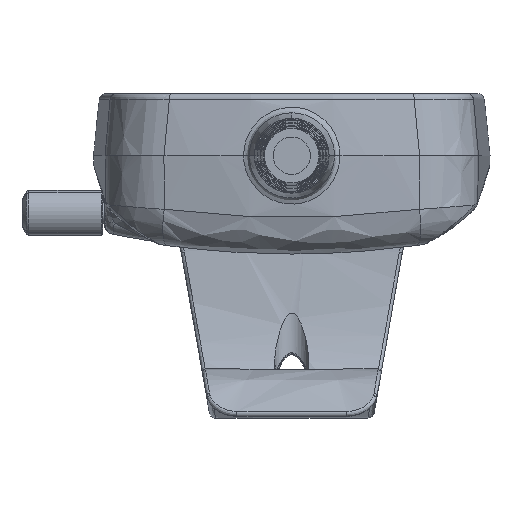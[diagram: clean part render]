
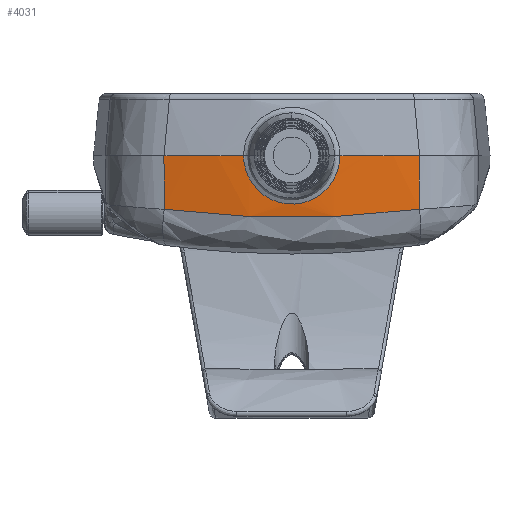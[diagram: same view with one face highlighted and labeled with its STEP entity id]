
A CAD part, front view. The second image highlights one B-rep face of the part: STEP entity #4031.
In plain terms, the highlighted conical face has half-angle 1 degrees and reference radius 100 mm.
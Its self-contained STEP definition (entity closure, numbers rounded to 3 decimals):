
#2424 = CIRCLE ( 'NONE', #10040, 100. ) ;
#4031 = ADVANCED_FACE ( 'NONE', ( #35041 ), #35038, .T. ) ;
#8880 = EDGE_CURVE ( 'NONE', #18343, #18563, #14542, .T. ) ;
#8885 = EDGE_CURVE ( 'NONE', #18563, #18247, #35634, .T. ) ;
#8886 = EDGE_CURVE ( 'NONE', #18503, #18304, #14538, .T. ) ;
#8896 = EDGE_CURVE ( 'NONE', #18429, #18343, #34967, .T. ) ;
#8897 = EDGE_CURVE ( 'NONE', #18247, #18503, #34957, .T. ) ;
#9342 = AXIS2_PLACEMENT_3D ( 'NONE', #15811, #15807, #15809 ) ;
#9459 = AXIS2_PLACEMENT_3D ( 'NONE', #24072, #24076, #24077 ) ;
#10040 = AXIS2_PLACEMENT_3D ( 'NONE', #30274, #30278, #30279 ) ;
#13617 = EDGE_LOOP ( 'NONE', ( #21407, #21217, #20940, #20742, #20903, #20716 ) ) ;
#14538 = B_SPLINE_CURVE_WITH_KNOTS ( 'NONE', 3,
 ( #23903, #23912, #23913, #23914, #23915, #23916, #23917, #23918, #23919, #23920, #23921, #23922, #23923, #23924, #23925, #23926, #23927, #23928, #23929, #23930, #23931, #23932, #23933, #23934, #23935, #23937, #23938, #23939, #23940, #23941, #23942, #23943, #23944, #23945, #23946, #23947, #23948, #23949, #23950, #23951, #23952, #23953 ),
 .UNSPECIFIED., .F., .F.,
 ( 4, 2, 2, 2, 2, 2, 2, 2, 2, 2, 2, 2, 2, 2, 2, 2, 2, 2, 2, 2, 4 ),
 ( 0., 0.002, 0.003, 0.004, 0.005, 0.006, 0.008, 0.008, 0.009, 0.011, 0.012, 0.014, 0.015, 0.015, 0.017, 0.018, 0.019, 0.02, 0.022, 0.023, 0.025 ),
 .UNSPECIFIED. ) ;
#14542 = B_SPLINE_CURVE_WITH_KNOTS ( 'NONE', 3,
 ( #23855, #23878, #23879, #23880, #23881, #23882, #23883, #23884, #23885, #23886, #23888, #23889, #23890 ),
 .UNSPECIFIED., .F., .F.,
 ( 4, 2, 2, 1, 2, 2, 4 ),
 ( 0., 0.25, 0.375, 0.438, 0.469, 0.5, 1. ),
 .UNSPECIFIED. ) ;
#15807 = DIRECTION ( 'NONE',  ( 0., 0., 1. ) ) ;
#15809 = DIRECTION ( 'NONE',  ( 1., 0., 0. ) ) ;
#15811 = CARTESIAN_POINT ( 'NONE',  ( 0., -4.606, 0. ) ) ;
#18247 = VERTEX_POINT ( 'NONE', #27585 ) ;
#18304 = VERTEX_POINT ( 'NONE', #27641 ) ;
#18343 = VERTEX_POINT ( 'NONE', #27680 ) ;
#18429 = VERTEX_POINT ( 'NONE', #27766 ) ;
#18503 = VERTEX_POINT ( 'NONE', #27840 ) ;
#18563 = VERTEX_POINT ( 'NONE', #27900 ) ;
#20716 = ORIENTED_EDGE ( 'NONE', *, *, #8885, .T. ) ;
#20742 = ORIENTED_EDGE ( 'NONE', *, *, #8896, .T. ) ;
#20903 = ORIENTED_EDGE ( 'NONE', *, *, #8880, .T. ) ;
#20940 = ORIENTED_EDGE ( 'NONE', *, *, #33908, .T. ) ;
#21217 = ORIENTED_EDGE ( 'NONE', *, *, #8886, .T. ) ;
#21407 = ORIENTED_EDGE ( 'NONE', *, *, #8897, .T. ) ;
#23855 = CARTESIAN_POINT ( 'NONE',  ( -20.577, -102.312, -8.635 ) ) ;
#23878 = CARTESIAN_POINT ( 'NONE',  ( -17.16, -103.024, -9.076 ) ) ;
#23879 = CARTESIAN_POINT ( 'NONE',  ( -13.721, -103.555, -9.407 ) ) ;
#23880 = CARTESIAN_POINT ( 'NONE',  ( -8.56, -104.083, -9.737 ) ) ;
#23881 = CARTESIAN_POINT ( 'NONE',  ( -6.84, -104.215, -9.819 ) ) ;
#23882 = CARTESIAN_POINT ( 'NONE',  ( -4.261, -104.346, -9.901 ) ) ;
#23883 = CARTESIAN_POINT ( 'NONE',  ( -2.973, -104.395, -9.932 ) ) ;
#23884 = CARTESIAN_POINT ( 'NONE',  ( -1.686, -104.419, -9.948 ) ) ;
#23885 = CARTESIAN_POINT ( 'NONE',  ( -0.829, -104.43, -9.954 ) ) ;
#23886 = CARTESIAN_POINT ( 'NONE',  ( -0.399, -104.432, -9.956 ) ) ;
#23888 = CARTESIAN_POINT ( 'NONE',  ( 6.862, -104.43, -9.955 ) ) ;
#23889 = CARTESIAN_POINT ( 'NONE',  ( 13.76, -103.732, -9.515 ) ) ;
#23890 = CARTESIAN_POINT ( 'NONE',  ( 20.577, -102.312, -8.635 ) ) ;
#23903 = CARTESIAN_POINT ( 'NONE',  ( 7.766, -104.304, 0. ) ) ;
#23908 = CARTESIAN_POINT ( 'NONE',  ( 20.608, -102.46, 0. ) ) ;
#23909 = DIRECTION ( 'NONE',  ( 0.004, -0.017, 1. ) ) ;
#23912 = CARTESIAN_POINT ( 'NONE',  ( 7.767, -104.295, -0.514 ) ) ;
#23913 = CARTESIAN_POINT ( 'NONE',  ( 7.716, -104.29, -1.029 ) ) ;
#23914 = CARTESIAN_POINT ( 'NONE',  ( 7.518, -104.288, -2.027 ) ) ;
#23915 = CARTESIAN_POINT ( 'NONE',  ( 7.371, -104.29, -2.512 ) ) ;
#23916 = CARTESIAN_POINT ( 'NONE',  ( 7.08, -104.299, -3.219 ) ) ;
#23917 = CARTESIAN_POINT ( 'NONE',  ( 6.97, -104.303, -3.452 ) ) ;
#23918 = CARTESIAN_POINT ( 'NONE',  ( 6.729, -104.311, -3.904 ) ) ;
#23919 = CARTESIAN_POINT ( 'NONE',  ( 6.599, -104.316, -4.122 ) ) ;
#23920 = CARTESIAN_POINT ( 'NONE',  ( 6.178, -104.332, -4.755 ) ) ;
#23921 = CARTESIAN_POINT ( 'NONE',  ( 5.857, -104.345, -5.148 ) ) ;
#23922 = CARTESIAN_POINT ( 'NONE',  ( 5.133, -104.372, -5.875 ) ) ;
#23923 = CARTESIAN_POINT ( 'NONE',  ( 4.739, -104.386, -6.199 ) ) ;
#23924 = CARTESIAN_POINT ( 'NONE',  ( 4.108, -104.406, -6.623 ) ) ;
#23925 = CARTESIAN_POINT ( 'NONE',  ( 3.89, -104.413, -6.754 ) ) ;
#23926 = CARTESIAN_POINT ( 'NONE',  ( 3.441, -104.425, -6.995 ) ) ;
#23927 = CARTESIAN_POINT ( 'NONE',  ( 3.208, -104.431, -7.106 ) ) ;
#23928 = CARTESIAN_POINT ( 'NONE',  ( 2.501, -104.447, -7.4 ) ) ;
#23929 = CARTESIAN_POINT ( 'NONE',  ( 2.016, -104.455, -7.547 ) ) ;
#23930 = CARTESIAN_POINT ( 'NONE',  ( 1.019, -104.467, -7.746 ) ) ;
#23931 = CARTESIAN_POINT ( 'NONE',  ( 0.504, -104.47, -7.797 ) ) ;
#23932 = CARTESIAN_POINT ( 'NONE',  ( -0.513, -104.47, -7.796 ) ) ;
#23933 = CARTESIAN_POINT ( 'NONE',  ( -1.017, -104.467, -7.747 ) ) ;
#23934 = CARTESIAN_POINT ( 'NONE',  ( -1.768, -104.458, -7.596 ) ) ;
#23935 = CARTESIAN_POINT ( 'NONE',  ( -2.018, -104.454, -7.533 ) ) ;
#23937 = CARTESIAN_POINT ( 'NONE',  ( -2.506, -104.446, -7.384 ) ) ;
#23938 = CARTESIAN_POINT ( 'NONE',  ( -2.745, -104.441, -7.298 ) ) ;
#23939 = CARTESIAN_POINT ( 'NONE',  ( -3.446, -104.425, -7.006 ) ) ;
#23940 = CARTESIAN_POINT ( 'NONE',  ( -3.893, -104.413, -6.767 ) ) ;
#23941 = CARTESIAN_POINT ( 'NONE',  ( -4.747, -104.386, -6.194 ) ) ;
#23942 = CARTESIAN_POINT ( 'NONE',  ( -5.138, -104.372, -5.87 ) ) ;
#23943 = CARTESIAN_POINT ( 'NONE',  ( -5.675, -104.352, -5.331 ) ) ;
#23944 = CARTESIAN_POINT ( 'NONE',  ( -5.845, -104.345, -5.142 ) ) ;
#23945 = CARTESIAN_POINT ( 'NONE',  ( -6.168, -104.333, -4.747 ) ) ;
#23946 = CARTESIAN_POINT ( 'NONE',  ( -6.322, -104.327, -4.539 ) ) ;
#23947 = CARTESIAN_POINT ( 'NONE',  ( -6.745, -104.31, -3.902 ) ) ;
#23948 = CARTESIAN_POINT ( 'NONE',  ( -6.983, -104.302, -3.454 ) ) ;
#23949 = CARTESIAN_POINT ( 'NONE',  ( -7.371, -104.29, -2.514 ) ) ;
#23950 = CARTESIAN_POINT ( 'NONE',  ( -7.52, -104.288, -2.018 ) ) ;
#23951 = CARTESIAN_POINT ( 'NONE',  ( -7.717, -104.29, -1.02 ) ) ;
#23952 = CARTESIAN_POINT ( 'NONE',  ( -7.767, -104.295, -0.514 ) ) ;
#23953 = CARTESIAN_POINT ( 'NONE',  ( -7.766, -104.304, 0. ) ) ;
#24072 = CARTESIAN_POINT ( 'NONE',  ( 0., -4.606, 0. ) ) ;
#24073 = CARTESIAN_POINT ( 'NONE',  ( -20.608, -102.46, 0. ) ) ;
#24074 = DIRECTION ( 'NONE',  ( 0.004, 0.017, -1. ) ) ;
#24076 = DIRECTION ( 'NONE',  ( 0., 0., -1. ) ) ;
#24077 = DIRECTION ( 'NONE',  ( 1., 0., 0. ) ) ;
#27585 = CARTESIAN_POINT ( 'NONE',  ( 20.608, -102.46, 0. ) ) ;
#27641 = CARTESIAN_POINT ( 'NONE',  ( -7.766, -104.304, 0. ) ) ;
#27680 = CARTESIAN_POINT ( 'NONE',  ( -20.577, -102.312, -8.635 ) ) ;
#27766 = CARTESIAN_POINT ( 'NONE',  ( -20.608, -102.46, 0. ) ) ;
#27840 = CARTESIAN_POINT ( 'NONE',  ( 7.766, -104.304, 0. ) ) ;
#27900 = CARTESIAN_POINT ( 'NONE',  ( 20.577, -102.312, -8.635 ) ) ;
#30274 = CARTESIAN_POINT ( 'NONE',  ( 0., -4.606, 0. ) ) ;
#30278 = DIRECTION ( 'NONE',  ( 0., 0., -1. ) ) ;
#30279 = DIRECTION ( 'NONE',  ( 1., 0., 0. ) ) ;
#33908 = EDGE_CURVE ( 'NONE', #18304, #18429, #2424, .T. ) ;
#34957 = CIRCLE ( 'NONE', #9459, 100. ) ;
#34967 = LINE ( 'NONE', #24073, #35608 ) ;
#35038 = CONICAL_SURFACE ( 'NONE', #9342, 100., 0.017 ) ;
#35041 = FACE_OUTER_BOUND ( 'NONE', #13617, .T. ) ;
#35445 = VECTOR ( 'NONE', #23909, 1000. ) ;
#35608 = VECTOR ( 'NONE', #24074, 1000. ) ;
#35634 = LINE ( 'NONE', #23908, #35445 ) ;
